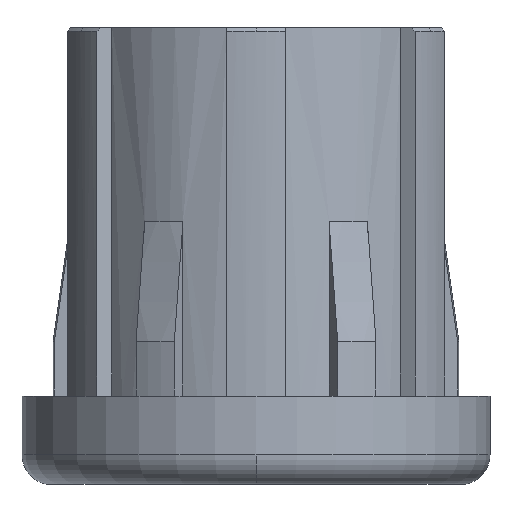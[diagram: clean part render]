
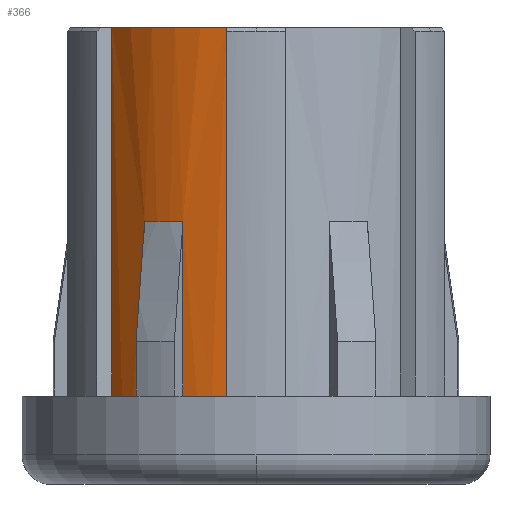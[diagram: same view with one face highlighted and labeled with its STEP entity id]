
A CAD part, front view. The second image highlights one B-rep face of the part: STEP entity #366.
In plain terms, the highlighted cylindrical face has radius 12.6 mm (diameter 25.2 mm), a partial arc.
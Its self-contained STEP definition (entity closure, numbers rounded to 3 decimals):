
#12 = CARTESIAN_POINT ( 'NONE',  ( -4.956, -11.584, 5.25 ) ) ;
#18 = CIRCLE ( 'NONE', #2346, 12.6 ) ;
#125 = CARTESIAN_POINT ( 'NONE',  ( 0., 0., 5.25 ) ) ;
#128 = VERTEX_POINT ( 'NONE', #1786 ) ;
#132 = CARTESIAN_POINT ( 'NONE',  ( 0., 0., 30.25 ) ) ;
#179 = DIRECTION ( 'NONE',  ( 1., 0., 0. ) ) ;
#217 = VERTEX_POINT ( 'NONE', #2815 ) ;
#366 = ADVANCED_FACE ( 'NONE', ( #1822 ), #2242, .T. ) ;
#380 = DIRECTION ( 'NONE',  ( 0., 0., -1. ) ) ;
#407 = DIRECTION ( 'NONE',  ( 0., 0., -1. ) ) ;
#423 = CARTESIAN_POINT ( 'NONE',  ( -7.554, -10.084, 17.086 ) ) ;
#439 = LINE ( 'NONE', #2786, #477 ) ;
#477 = VECTOR ( 'NONE', #1287, 1000. ) ;
#568 = CARTESIAN_POINT ( 'NONE',  ( 0., 0., 5.25 ) ) ;
#588 = VERTEX_POINT ( 'NONE', #12 ) ;
#606 = DIRECTION ( 'NONE',  ( 1., 0., 0. ) ) ;
#641 = DIRECTION ( 'NONE',  ( 0., 0., -1. ) ) ;
#645 = LINE ( 'NONE', #2577, #3220 ) ;
#654 = CARTESIAN_POINT ( 'NONE',  ( -9.774, -7.952, 5.25 ) ) ;
#697 = ORIENTED_EDGE ( 'NONE', *, *, #1207, .T. ) ;
#749 = EDGE_LOOP ( 'NONE', ( #1183, #1778, #1131, #1492, #2133, #697, #2414, #1872 ) ) ;
#753 = CIRCLE ( 'NONE', #1014, 12.6 ) ;
#809 = VERTEX_POINT ( 'NONE', #2155 ) ;
#830 = EDGE_CURVE ( 'NONE', #1690, #809, #2780, .T. ) ;
#894 = DIRECTION ( 'NONE',  ( 0., 0., 1. ) ) ;
#954 = DIRECTION ( 'NONE',  ( -1., 0., 0. ) ) ;
#1014 = AXIS2_PLACEMENT_3D ( 'NONE', #568, #3045, #606 ) ;
#1131 = ORIENTED_EDGE ( 'NONE', *, *, #2221, .T. ) ;
#1183 = ORIENTED_EDGE ( 'NONE', *, *, #1986, .F. ) ;
#1207 = EDGE_CURVE ( 'NONE', #128, #1571, #439, .T. ) ;
#1286 = CARTESIAN_POINT ( 'NONE',  ( -2., -12.44, 30.25 ) ) ;
#1287 = DIRECTION ( 'NONE',  ( 0., 0., -1. ) ) ;
#1330 = EDGE_CURVE ( 'NONE', #2988, #217, #645, .T. ) ;
#1339 = EDGE_CURVE ( 'NONE', #1571, #217, #2525, .T. ) ;
#1348 = AXIS2_PLACEMENT_3D ( 'NONE', #132, #894, #1882 ) ;
#1379 = VECTOR ( 'NONE', #407, 1000. ) ;
#1492 = ORIENTED_EDGE ( 'NONE', *, *, #830, .F. ) ;
#1508 = CIRCLE ( 'NONE', #1855, 12.6 ) ;
#1571 = VERTEX_POINT ( 'NONE', #654 ) ;
#1608 = CARTESIAN_POINT ( 'NONE',  ( -2., -12.44, 30.25 ) ) ;
#1669 = CARTESIAN_POINT ( 'NONE',  ( 0., 0., 17.086 ) ) ;
#1670 = CARTESIAN_POINT ( 'NONE',  ( 0., 0., 30.25 ) ) ;
#1690 = VERTEX_POINT ( 'NONE', #1286 ) ;
#1697 = VECTOR ( 'NONE', #380, 1000. ) ;
#1778 = ORIENTED_EDGE ( 'NONE', *, *, #2929, .T. ) ;
#1786 = CARTESIAN_POINT ( 'NONE',  ( -9.774, -7.952, 30.25 ) ) ;
#1822 = FACE_OUTER_BOUND ( 'NONE', #749, .T. ) ;
#1855 = AXIS2_PLACEMENT_3D ( 'NONE', #1670, #2420, #179 ) ;
#1872 = ORIENTED_EDGE ( 'NONE', *, *, #1330, .F. ) ;
#1882 = DIRECTION ( 'NONE',  ( -1., 0., 0. ) ) ;
#1889 = CARTESIAN_POINT ( 'NONE',  ( -4.956, -11.584, 30.25 ) ) ;
#1937 = AXIS2_PLACEMENT_3D ( 'NONE', #125, #2345, #2369 ) ;
#1986 = EDGE_CURVE ( 'NONE', #3155, #2988, #18, .T. ) ;
#2030 = LINE ( 'NONE', #1889, #1379 ) ;
#2133 = ORIENTED_EDGE ( 'NONE', *, *, #2682, .F. ) ;
#2155 = CARTESIAN_POINT ( 'NONE',  ( -2., -12.44, 5.25 ) ) ;
#2221 = EDGE_CURVE ( 'NONE', #588, #809, #753, .T. ) ;
#2242 = CYLINDRICAL_SURFACE ( 'NONE', #1348, 12.6 ) ;
#2345 = DIRECTION ( 'NONE',  ( 0., 0., 1. ) ) ;
#2346 = AXIS2_PLACEMENT_3D ( 'NONE', #1669, #3205, #954 ) ;
#2369 = DIRECTION ( 'NONE',  ( 1., 0., 0. ) ) ;
#2414 = ORIENTED_EDGE ( 'NONE', *, *, #1339, .T. ) ;
#2420 = DIRECTION ( 'NONE',  ( 0., 0., 1. ) ) ;
#2525 = CIRCLE ( 'NONE', #1937, 12.6 ) ;
#2577 = CARTESIAN_POINT ( 'NONE',  ( -7.554, -10.084, 30.25 ) ) ;
#2682 = EDGE_CURVE ( 'NONE', #128, #1690, #1508, .T. ) ;
#2720 = CARTESIAN_POINT ( 'NONE',  ( -4.956, -11.584, 17.086 ) ) ;
#2780 = LINE ( 'NONE', #1608, #1697 ) ;
#2786 = CARTESIAN_POINT ( 'NONE',  ( -9.774, -7.952, 30.25 ) ) ;
#2815 = CARTESIAN_POINT ( 'NONE',  ( -7.554, -10.084, 5.25 ) ) ;
#2929 = EDGE_CURVE ( 'NONE', #3155, #588, #2030, .T. ) ;
#2988 = VERTEX_POINT ( 'NONE', #423 ) ;
#3045 = DIRECTION ( 'NONE',  ( 0., 0., 1. ) ) ;
#3155 = VERTEX_POINT ( 'NONE', #2720 ) ;
#3205 = DIRECTION ( 'NONE',  ( 0., 0., -1. ) ) ;
#3220 = VECTOR ( 'NONE', #641, 1000. ) ;
